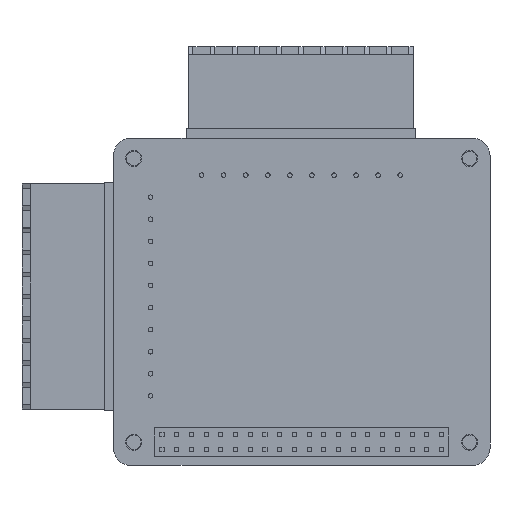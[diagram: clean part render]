
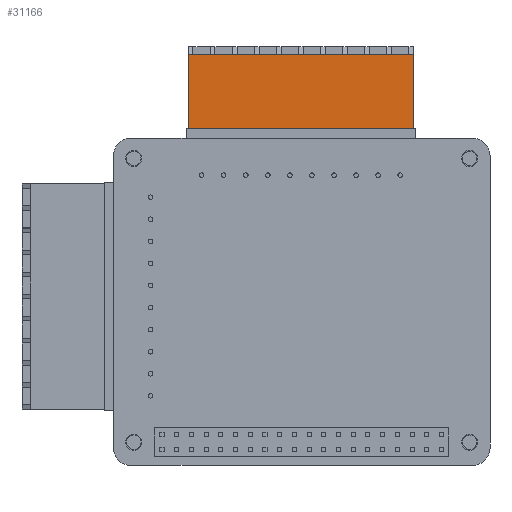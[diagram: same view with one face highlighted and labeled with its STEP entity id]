
A CAD part, front view. The second image highlights one B-rep face of the part: STEP entity #31166.
In plain terms, the highlighted planar face has unit normal (0, -1, 0).
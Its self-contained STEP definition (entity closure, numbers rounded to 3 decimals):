
#3630=LINE('',#47727,#7504);
#4341=LINE('',#49311,#8215);
#4346=LINE('',#49320,#8220);
#4348=LINE('',#49323,#8222);
#7504=VECTOR('',#39286,10.);
#8215=VECTOR('',#40813,10.);
#8220=VECTOR('',#40824,10.);
#8222=VECTOR('',#40828,10.);
#9864=FACE_OUTER_BOUND('',#11817,.T.);
#11817=EDGE_LOOP('',(#27029,#27030,#27031,#27032));
#14312=VERTEX_POINT('',#47724);
#14313=VERTEX_POINT('',#47726);
#14778=VERTEX_POINT('',#49310);
#14779=VERTEX_POINT('',#49319);
#18106=EDGE_CURVE('',#14312,#14313,#3630,.T.);
#18877=EDGE_CURVE('',#14778,#14313,#4341,.T.);
#18882=EDGE_CURVE('',#14778,#14779,#4346,.T.);
#18884=EDGE_CURVE('',#14779,#14312,#4348,.T.);
#27029=ORIENTED_EDGE('',*,*,#18882,.F.);
#27030=ORIENTED_EDGE('',*,*,#18877,.T.);
#27031=ORIENTED_EDGE('',*,*,#18106,.F.);
#27032=ORIENTED_EDGE('',*,*,#18884,.F.);
#28643=PLANE('',#33230);
#31166=ADVANCED_FACE('',(#9864),#28643,.T.);
#33230=AXIS2_PLACEMENT_3D('',#49322,#40826,#40827);
#39286=DIRECTION('',(1.,0.,0.));
#40813=DIRECTION('',(0.,0.,1.));
#40824=DIRECTION('',(-1.,0.,0.));
#40826=DIRECTION('center_axis',(0.,-1.,0.));
#40827=DIRECTION('ref_axis',(1.,0.,0.));
#40828=DIRECTION('',(0.,0.,1.));
#47724=CARTESIAN_POINT('',(-19.445,-6.8,12.8));
#47726=CARTESIAN_POINT('',(19.445,-6.8,12.8));
#47727=CARTESIAN_POINT('',(19.445,-6.8,12.8));
#49310=CARTESIAN_POINT('',(19.445,-6.8,0.));
#49311=CARTESIAN_POINT('',(19.445,-6.8,0.));
#49319=CARTESIAN_POINT('',(-19.445,-6.8,0.));
#49320=CARTESIAN_POINT('',(19.445,-6.8,0.));
#49322=CARTESIAN_POINT('Origin',(-19.445,-6.8,0.));
#49323=CARTESIAN_POINT('',(-19.445,-6.8,0.));
